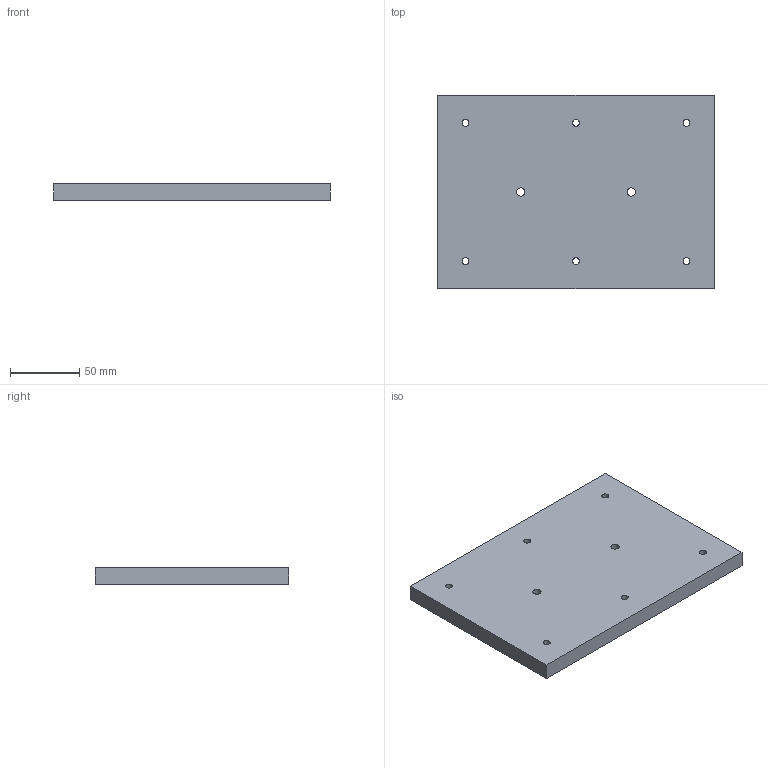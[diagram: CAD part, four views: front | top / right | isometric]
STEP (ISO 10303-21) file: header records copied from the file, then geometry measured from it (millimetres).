
FILE_DESCRIPTION(('Open CASCADE Model'),'2;1');
FILE_NAME('Open CASCADE Shape Model','2026-10-28T05:16:18',('Author'),( 'Open CASCADE'),'Open CASCADE STEP processor 7.8','Open CASCADE 7.8' ,'Unknown');
FILE_SCHEMA(('AUTOMOTIVE_DESIGN { 1 0 10303 214 1 1 1 1 }'));
Length unit declared in the file: millimetre
Products named in the file (1): Open CASCADE STEP translator 7.8 2
Bounding box: 200 x 140 x 12 mm (x, y, z)
Volume: 333912.2 mm3; surface area: 65393.9 mm2
Topology: 1 solids, 1 shells, 14 faces, 36 edges, 24 vertices
Faces by surface type: cylinder 8, plane 6
Full cylindrical faces by diameter (mm): 5 x6, 5.98 x2
Entity records: 946 total; most frequent: DIRECTION 154, CARTESIAN_POINT 147, LINE 76, VECTOR 76, ORIENTED_EDGE 72, PCURVE 72, DEFINITIONAL_REPRESENTATION 72, EDGE_CURVE 36
